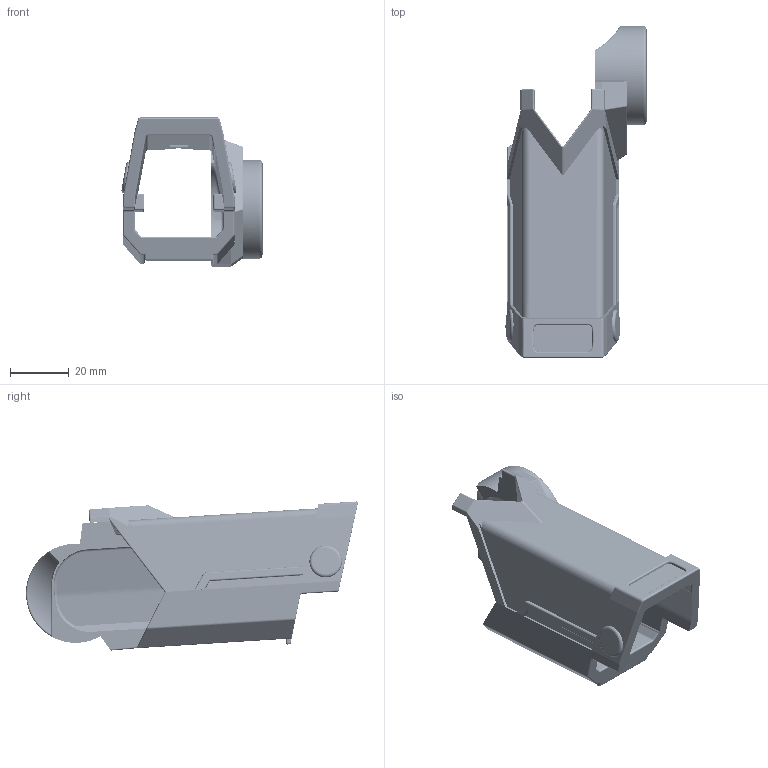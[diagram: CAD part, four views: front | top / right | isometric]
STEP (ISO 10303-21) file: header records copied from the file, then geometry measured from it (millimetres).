
FILE_DESCRIPTION((''),'2;1');
FILE_NAME('Index Finger P1', '2025-03-27T07:43:44', (''), (''), 'ImageToStl.com STEP Converter','', '');
FILE_SCHEMA(('AUTOMOTIVE_DESIGN_CC2'));
Length unit declared in the file: metre
Products named in the file (1): product0
Bounding box: 47.83 x 112.6 x 50.56 mm (x, y, z)
Surface area: 24002.4 mm2 (no closed solid volume)
Topology: 0 solids, 43750 shells, 43750 faces, 131250 edges, 21871 vertices
Faces by surface type: plane 43750
Entity records: 1050027 total; most frequent: DIRECTION 218752, ORIENTED_EDGE 131250, EDGE_CURVE 131250, LINE 131250, VECTOR 131250, AXIS2_PLACEMENT_3D 43751, STYLED_ITEM 43751, FACE_SURFACE 43750
